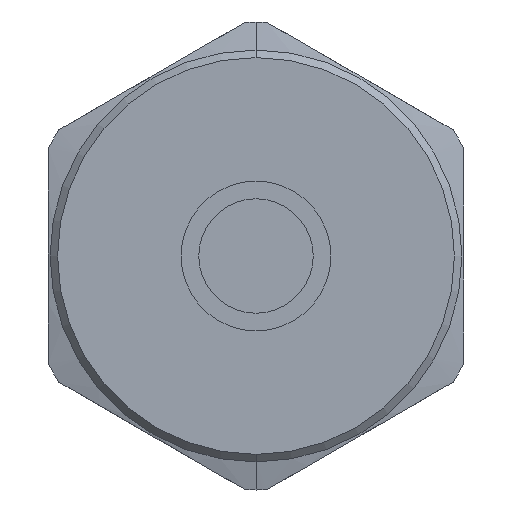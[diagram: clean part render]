
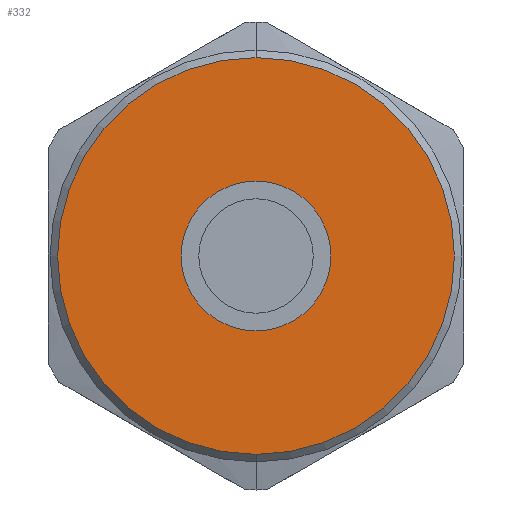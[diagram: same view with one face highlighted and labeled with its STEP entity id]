
A CAD part, front view. The second image highlights one B-rep face of the part: STEP entity #332.
In plain terms, the highlighted planar face has unit normal (0, -1, 0).
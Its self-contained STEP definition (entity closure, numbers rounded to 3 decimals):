
#33 = AXIS2_PLACEMENT_3D ( 'NONE', #1518, #4145, #1895 ) ;
#93 = DIRECTION ( 'NONE',  ( 0., -1., 0. ) ) ;
#101 = ORIENTED_EDGE ( 'NONE', *, *, #451, .T. ) ;
#110 = CARTESIAN_POINT ( 'NONE',  ( 0., 0.5, 0. ) ) ;
#138 = DIRECTION ( 'NONE',  ( 0., 0., -1. ) ) ;
#332 = ADVANCED_FACE ( 'NONE', ( #3451, #1582 ), #1592, .T. ) ;
#451 = EDGE_CURVE ( 'NONE', #785, #698, #2342, .T. ) ;
#468 = DIRECTION ( 'NONE',  ( 0., 0., 1. ) ) ;
#610 = CIRCLE ( 'NONE', #4127, 10.6 ) ;
#698 = VERTEX_POINT ( 'NONE', #4406 ) ;
#754 = CARTESIAN_POINT ( 'NONE',  ( 0., 0.5, 0. ) ) ;
#780 = CARTESIAN_POINT ( 'NONE',  ( 0., 0.5, 10.6 ) ) ;
#785 = VERTEX_POINT ( 'NONE', #780 ) ;
#1078 = VERTEX_POINT ( 'NONE', #1956 ) ;
#1095 = EDGE_CURVE ( 'NONE', #1078, #3534, #4574, .T. ) ;
#1138 = ORIENTED_EDGE ( 'NONE', *, *, #4832, .T. ) ;
#1518 = CARTESIAN_POINT ( 'NONE',  ( 0., 0.5, 0. ) ) ;
#1521 = DIRECTION ( 'NONE',  ( 0., -1., 0. ) ) ;
#1582 = FACE_BOUND ( 'NONE', #3607, .T. ) ;
#1592 = PLANE ( 'NONE',  #2011 ) ;
#1608 = CARTESIAN_POINT ( 'NONE',  ( -11., 0.5, 0. ) ) ;
#1895 = DIRECTION ( 'NONE',  ( 0., 0., 1. ) ) ;
#1956 = CARTESIAN_POINT ( 'NONE',  ( 0., 0.5, -4. ) ) ;
#1980 = CIRCLE ( 'NONE', #33, 4. ) ;
#2011 = AXIS2_PLACEMENT_3D ( 'NONE', #1608, #1521, #3397 ) ;
#2342 = CIRCLE ( 'NONE', #3519, 10.6 ) ;
#2379 = DIRECTION ( 'NONE',  ( 0., -1., 0. ) ) ;
#2492 = AXIS2_PLACEMENT_3D ( 'NONE', #110, #2733, #468 ) ;
#2733 = DIRECTION ( 'NONE',  ( 0., 1., 0. ) ) ;
#2759 = ORIENTED_EDGE ( 'NONE', *, *, #1095, .T. ) ;
#2876 = ORIENTED_EDGE ( 'NONE', *, *, #4087, .T. ) ;
#2968 = CARTESIAN_POINT ( 'NONE',  ( 0., 0.5, 4. ) ) ;
#3020 = DIRECTION ( 'NONE',  ( 0., 0., -1. ) ) ;
#3384 = EDGE_LOOP ( 'NONE', ( #101, #1138 ) ) ;
#3397 = DIRECTION ( 'NONE',  ( 0., 0., -1. ) ) ;
#3451 = FACE_OUTER_BOUND ( 'NONE', #3384, .T. ) ;
#3519 = AXIS2_PLACEMENT_3D ( 'NONE', #754, #93, #3020 ) ;
#3534 = VERTEX_POINT ( 'NONE', #2968 ) ;
#3607 = EDGE_LOOP ( 'NONE', ( #2876, #2759 ) ) ;
#4087 = EDGE_CURVE ( 'NONE', #3534, #1078, #1980, .T. ) ;
#4127 = AXIS2_PLACEMENT_3D ( 'NONE', #4626, #2379, #138 ) ;
#4145 = DIRECTION ( 'NONE',  ( 0., 1., 0. ) ) ;
#4406 = CARTESIAN_POINT ( 'NONE',  ( 0., 0.5, -10.6 ) ) ;
#4574 = CIRCLE ( 'NONE', #2492, 4. ) ;
#4626 = CARTESIAN_POINT ( 'NONE',  ( 0., 0.5, 0. ) ) ;
#4832 = EDGE_CURVE ( 'NONE', #698, #785, #610, .T. ) ;
